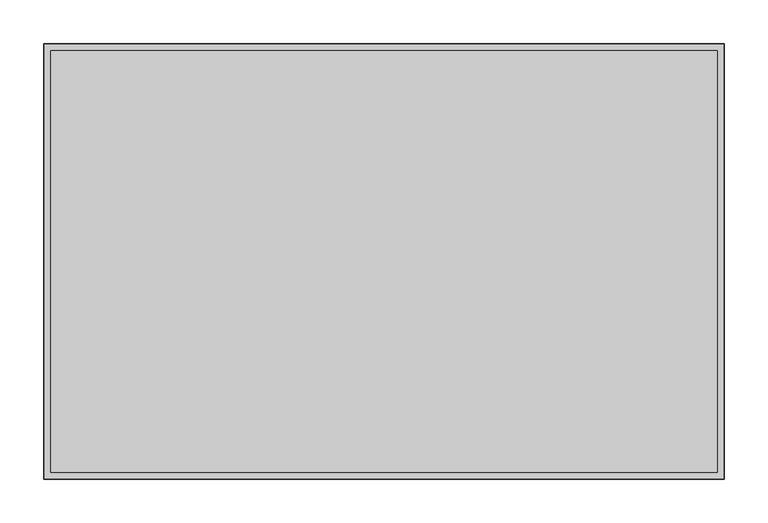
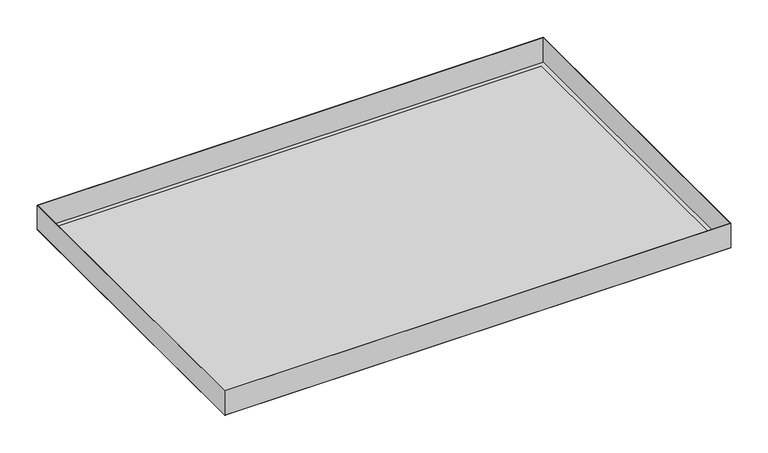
"""IFC4 building model written with IfcOpenShell, lengths in millimetres: proxy geometry, durlum_S-OM-40 : durlum_S-OM-40_panel_wall_corner."""

from ifc_helpers import new_model, si_unit, frame, origin, origin_with_axes, place, context, project, spatial, polyline, outline, extrude, source, transform, mapped, element, save


def generic_models_0d7f372a(model_context):
    return source(origin(), model_context, "Body", "SweptSolid", [
        extrude(outline(polyline([(389.5, 249.5), (389.5, -249.5), (-389.5, -249.5), (-389.5, 249.5), (389.5, 249.5)]), holes=[polyline([(388.9, 248.9), (-388.9, 248.9), (-388.9, -248.9), (388.9, -248.9), (388.9, 248.9)])]), frame((0.0, 0.0, 0.6), z_axis=(0.0, 0.0, 1.0), x_axis=(1.0, 0.0, 0.0)), (0.0, 0.0, 1.0), 39.4),
        extrude(outline(polyline([(381.5, 241.5), (381.5, -241.5), (-381.5, -241.5), (-381.5, 241.5), (381.5, 241.5)])), frame((0.0, 0.0, 0.6), z_axis=(0.0, 0.0, 1.0), x_axis=(1.0, 0.0, 0.0)), (0.0, 0.0, 1.0), 0.6),
        extrude(outline(polyline([(389.5, 249.5), (389.5, -249.5), (-389.5, -249.5), (-389.5, 249.5), (389.5, 249.5)]), holes=[polyline([(381.5, 241.5), (-381.5, 241.5), (-381.5, -241.5), (381.5, -241.5), (381.5, 241.5)])]), origin_with_axes(), (0.0, 0.0, 1.0), 0.6),
        extrude(outline(polyline([(381.5, 241.5), (381.5, -241.5), (-381.5, -241.5), (-381.5, 241.5), (381.5, 241.5)])), origin_with_axes(), (0.0, 0.0, 1.0), 0.6),
    ])


if __name__ == "__main__":
    model = new_model("IFC4")
    model_context = context("Model", 3, world=origin())
    ifc_project = project(units=[si_unit("LENGTHUNIT", "METRE", prefix="MILLI")], contexts=[model_context])
    site = spatial("IfcSite", under=ifc_project)
    building = spatial("IfcBuilding", under=site)
    placement = place(None, origin())
    generic_models_shape = generic_models_0d7f372a(model_context)
    element("IfcBuildingElementProxy", 1, Name="durlum_S-OM-40 : durlum_S-OM-40_panel_wall_corner", ObjectType="durlum_S-OM-40 : durlum_S-OM-40_panel_wall_corner", at=placement, inside=building, context=model_context, shape_type="MappedRepresentation", body=[
        mapped(generic_models_shape, transform((0.0, 0.0, 0.0), x_axis=(1.0, 0.0, 0.0), y_axis=(0.0, 1.0, 0.0), z_axis=(0.0, 0.0, 1.0))),
    ])
    save(model, "model.ifc")
